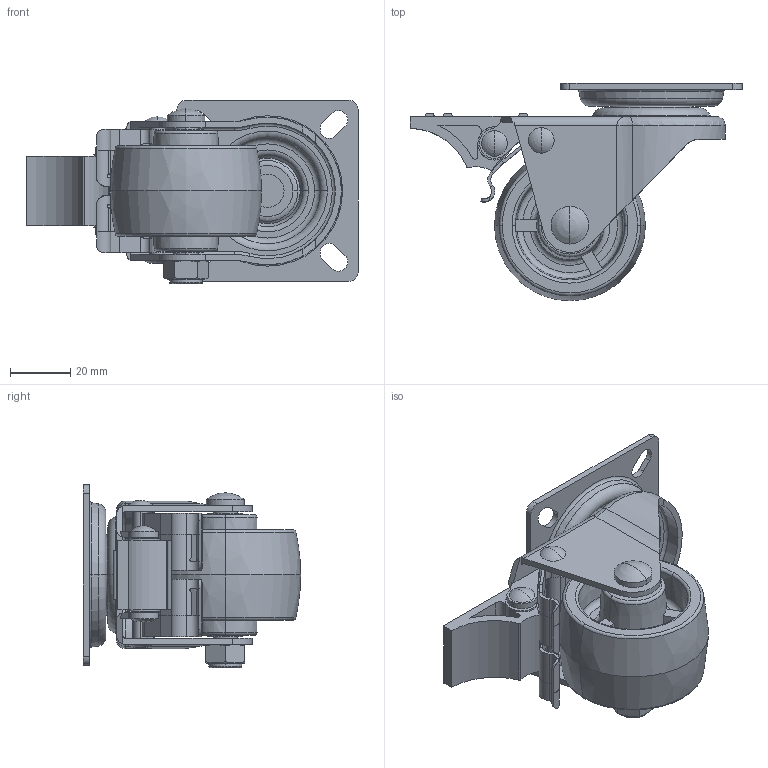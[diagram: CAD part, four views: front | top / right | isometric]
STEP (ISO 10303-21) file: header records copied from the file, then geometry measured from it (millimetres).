
FILE_DESCRIPTION((''),'2;1');
FILE_NAME('3122-04_ASM','2023-01-03T',('lenovo'),(''),'PRO/ENGINEER BY PARAMETRIC TECHNOLOGY CORPORATION, 2010280','PRO/ENGINEER BY PARAMETRIC TECHNOLOGY CORPORATION, 2010280','');
FILE_SCHEMA(('CONFIG_CONTROL_DESIGN'));
Length unit declared in the file: millimetre
Products named in the file (12): 310-12; 310-32; 500-32A; 310-64; XX2-13A; 540-33A; 310-01; 310-31; 550-54A; 310-804; 310-34; 3122-04_ASM
Assembly tree (11 placements, depth 2):
  3122-04_ASM
    310-12
    310-32
    500-32A
    310-64
    XX2-13A
    540-33A
    310-01
    310-31
    550-54A
    310-804
    310-34
Bounding box: 110 x 72 x 60.7 mm (x, y, z)
Volume: 81602.5 mm3; surface area: 52469.6 mm2
Topology: 13 solids, 13 shells, 594 faces, 1450 edges, 888 vertices
Faces by surface type: plane 268, cylinder 169, torus 63, cone 46, bspline 42, sphere 6
Entity records: 19311 total; most frequent: CARTESIAN_POINT 5143, DIRECTION 2971, ORIENTED_EDGE 2880, EDGE_CURVE 1440, AXIS2_PLACEMENT_3D 1121, VERTEX_POINT 888, VECTOR 729, LINE 729
